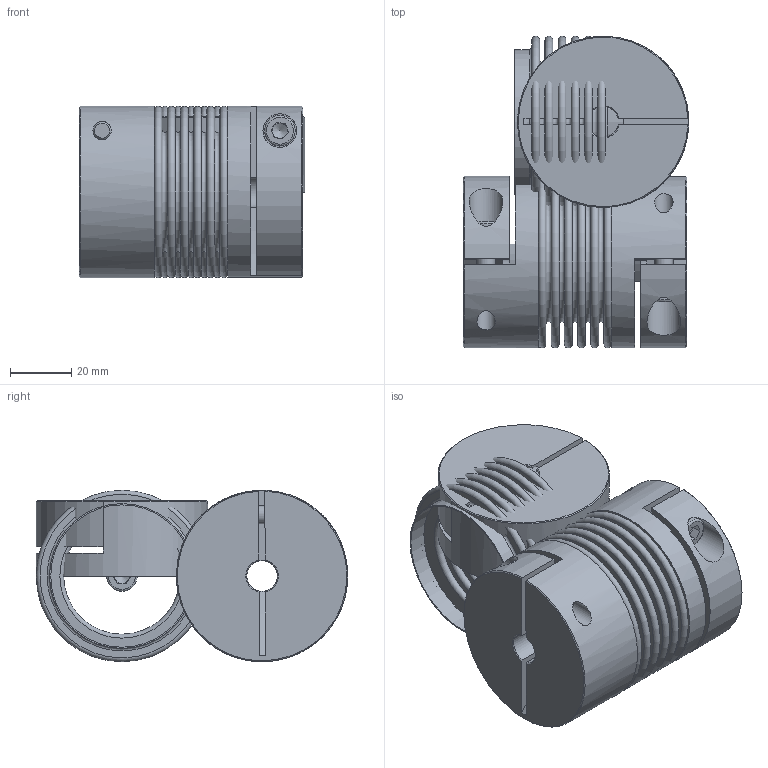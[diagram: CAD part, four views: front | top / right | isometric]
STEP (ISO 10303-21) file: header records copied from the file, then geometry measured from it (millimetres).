
FILE_DESCRIPTION( ( 'Unknown' ), '1' );
FILE_NAME( 'C:/Dokumente und Einstellungen/Sven/Desktop/cad - homepage/KB4/KB4-30-73.stp', 'Unknown', ( 'Unknown' ), ( 'Unknown' ), 'XStep 1.0', 'Unknown', ' ' );
FILE_SCHEMA( ( 'automotive_design' ) );
Length unit declared in the file: millimetre
Products named in the file (4): Assem1; Socket Head Cap Screw_DIN_DIN 912 M6 x 20 --- 20N_0; KN30_Standard_0; BL30_Standard
Bounding box: 73.73 x 101.78 x 55.99 mm (x, y, z)
Volume: 176831 mm3; surface area: 114546 mm2
Topology: 8 solids, 8 shells, 240 faces, 487 edges, 314 vertices
Faces by surface type: plane 130, torus 54, cylinder 41, cone 15
Full cylindrical faces by diameter (mm): 6 x6, 6.4 x3, 10 x6, 11 x3, 46.5 x4, 47.3 x4, 56 x3
Entity records: 2632 total; most frequent: CARTESIAN_POINT 522, DIRECTION 425, ORIENTED_EDGE 282, AXIS2_PLACEMENT_3D 191, EDGE_LOOP 168, EDGE_CURVE 141, FACE_OUTER_BOUND 133, VERTEX_POINT 116
